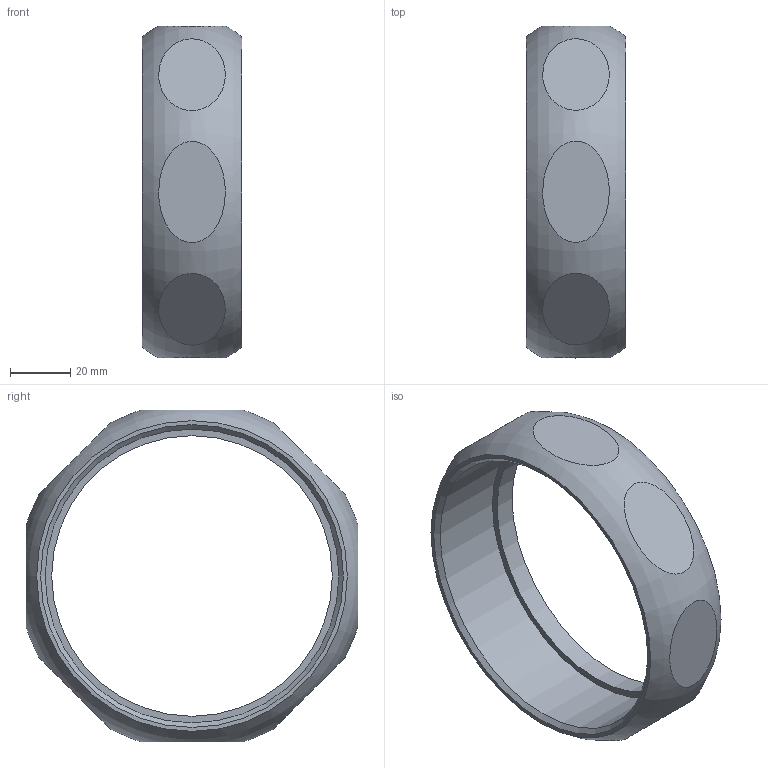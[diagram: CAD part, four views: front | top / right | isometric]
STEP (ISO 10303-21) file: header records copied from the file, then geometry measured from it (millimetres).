
FILE_DESCRIPTION((''),'2;1');
FILE_NAME('C:\Documents and Settings\pajchrowski\Desktop\step\14374_312.stp','2009-05-07T07:36:01',('pajchrowski'),(''),'Autodesk Inventor 2009','Autodesk Inventor 2009','');
FILE_SCHEMA(('AUTOMOTIVE_DESIGN { 1 0 10303 214 1 1 1 1 }'));
Length unit declared in the file: millimetre
Products named in the file (1): 14374_312
Bounding box: 33 x 110 x 110 mm (x, y, z)
Volume: 73149.2 mm3; surface area: 25116.2 mm2
Topology: 1 solids, 1 shells, 15 faces, 21 edges, 16 vertices
Faces by surface type: plane 11, cylinder 2, cone 1, torus 1
Full cylindrical faces by diameter (mm): 93 x1, 97.372 x1
Entity records: 1870 total; most frequent: CARTESIAN_POINT 1606, DIRECTION 46, ORIENTED_EDGE 30, EDGE_LOOP 30, AXIS2_PLACEMENT_3D 23, VERTEX_POINT 15, EDGE_CURVE 15, FACE_OUTER_BOUND 15
